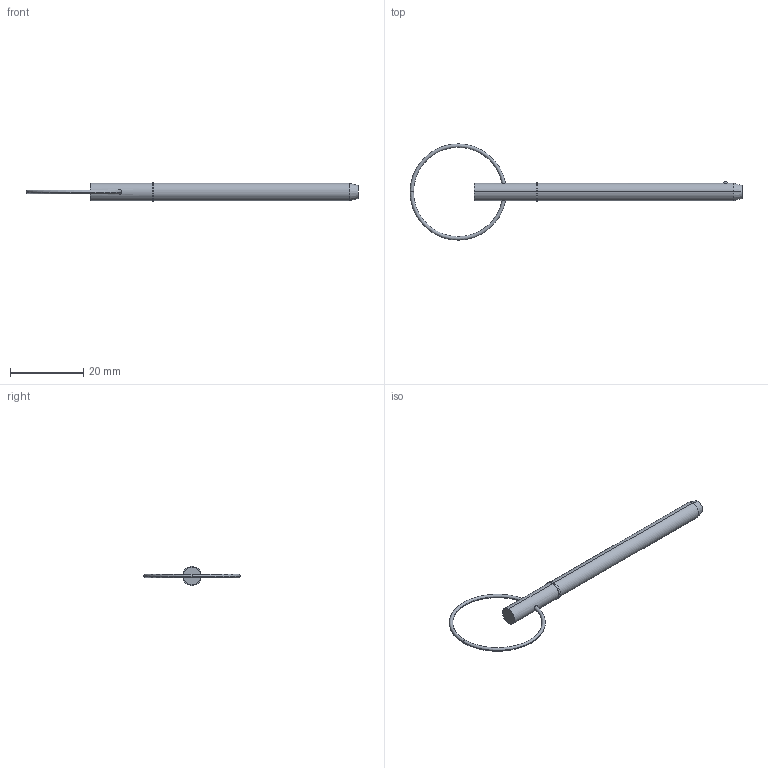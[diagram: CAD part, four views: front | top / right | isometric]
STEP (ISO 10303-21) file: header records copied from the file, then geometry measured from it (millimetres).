
FILE_DESCRIPTION (( 'STEP AP203' ), '1' );
FILE_NAME ('33016.W1820.step', '2024-11-07T11:01:14', ( '' ), ( '' ), 'SwSTEP 2.0', 'SolidWorks 2019', '' );
FILE_SCHEMA (( 'CONFIG_CONTROL_DESIGN' ));
Length unit declared in the file: millimetre
Products named in the file (3): 33016.W1820; Part2_33016.W1820; Part1_33016.W1820
Assembly tree (2 placements, depth 2):
  33016.W1820
    Part1_33016.W1820
    Part2_33016.W1820
Bounding box: 90.86 x 26.35 x 5.24 mm (x, y, z)
Volume: 1349.5 mm3; surface area: 1384.1 mm2
Topology: 2 solids, 2 shells, 22 faces, 43 edges, 26 vertices
Faces by surface type: torus 8, cylinder 6, plane 4, sphere 2, cone 2
Entity records: 941 total; most frequent: CARTESIAN_POINT 164, DIRECTION 120, ORIENTED_EDGE 86, AXIS2_PLACEMENT_3D 56, EDGE_CURVE 43, CIRCLE 29, EDGE_LOOP 27, VERTEX_POINT 26
